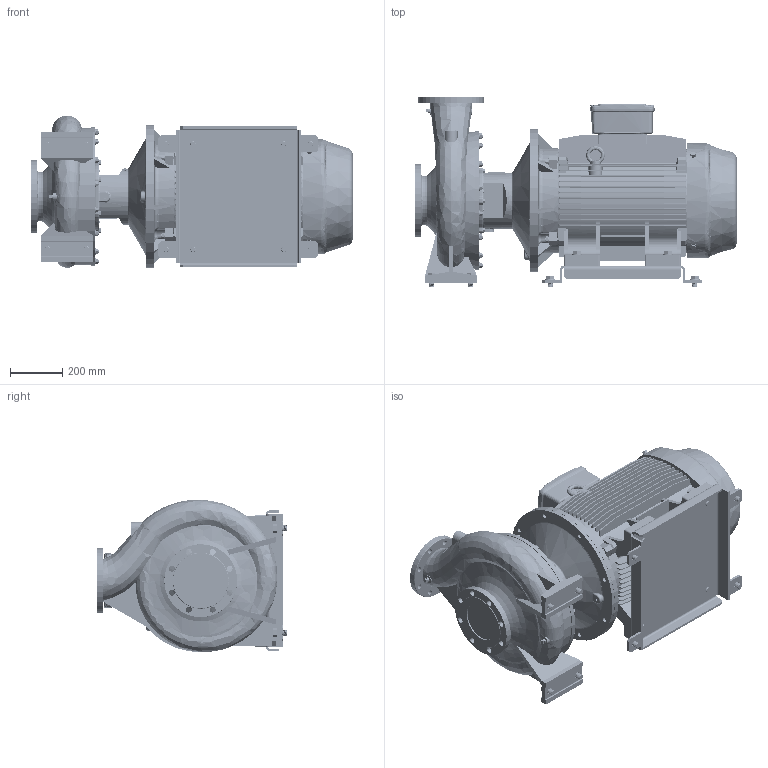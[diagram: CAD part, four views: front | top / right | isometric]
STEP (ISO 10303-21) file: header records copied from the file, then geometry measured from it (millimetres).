
FILE_DESCRIPTION (( 'STEP AP214' ), '1' );
FILE_NAME ('GSD4 125-400_55_(250SM)_W21.STEP', '2026-07-01T02:55:44', ( '' ), ( '' ), 'SwSTEP 2.0', 'SolidWorks 2024', '' );
FILE_SCHEMA (( 'AUTOMOTIVE_DESIGN' ));
Length unit declared in the file: millimetre
Products named in the file (11): Parametric bolt_SFT-A403B; Parametric bolt_SFT-A399B; 125-400-250S_M_ﾃﾞﾌｫﾙﾄ; CGS11-5292; Parametric bolt_SFT-A411B; 250S_M4P IE3_W21T_B35; Parametric bolt and washer_SFT-A403B; GSD4 125-400_55_(250SM)_W21; Parametric bolt and washer_SFT-A399B; Parametric Flat Washer_M20; Parametric bolt and washer_SFT-A411B
Assembly tree (21 placements, depth 3):
  GSD4 125-400_55_(250SM)_W21
    125-400-250S_M_ﾃﾞﾌｫﾙﾄ
    250S_M4P IE3_W21T_B35
    CGS11-5292
    Parametric bolt and washer_SFT-A403B  x4
      Parametric bolt_SFT-A403B
      Parametric Flat Washer_M20
    Parametric bolt and washer_SFT-A411B  x4
      Parametric bolt_SFT-A411B
      Parametric Flat Washer_M20
    Parametric bolt and washer_SFT-A399B  x4
      Parametric bolt_SFT-A399B
      Parametric Flat Washer_M20
Bounding box: 1240.5 x 733 x 586.27 mm (x, y, z)
Volume: 169360120.8 mm3; surface area: 6577123.8 mm2
Topology: 36 solids, 41 shells, 4554 faces, 11926 edges, 7597 vertices
Faces by surface type: plane 1783, cylinder 1554, cone 559, bspline 334, torus 306, sphere 18
Entity records: 186516 total; most frequent: CARTESIAN_POINT 94111, ORIENTED_EDGE 20234, DIRECTION 18320, EDGE_CURVE 10117, AXIS2_PLACEMENT_3D 6753, VERTEX_POINT 6430, LINE 4814, VECTOR 4814
